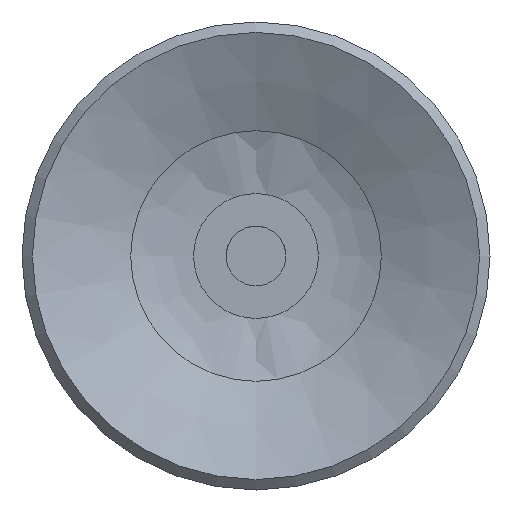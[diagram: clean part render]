
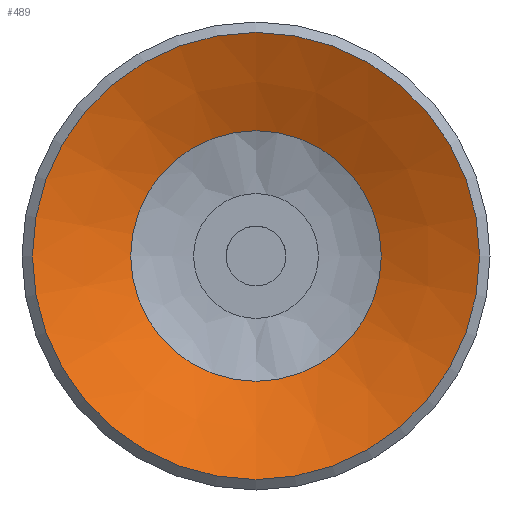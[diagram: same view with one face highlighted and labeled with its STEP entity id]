
A CAD part, front view. The second image highlights one B-rep face of the part: STEP entity #489.
In plain terms, the highlighted conical face has half-angle 65.056 degrees and reference radius 3.2 mm.
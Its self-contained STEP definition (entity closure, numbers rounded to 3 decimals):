
#489=ADVANCED_FACE('',(#731,#732),#733,.F.);
#731=FACE_BOUND('',#1000,.T.);
#732=FACE_OUTER_BOUND('',#1001,.T.);
#733=CONICAL_SURFACE('',#1002,3.2,1.135);
#1000=EDGE_LOOP('',(#1678));
#1001=EDGE_LOOP('',(#1679));
#1002=AXIS2_PLACEMENT_3D('',#1680,#1681,#1682);
#1678=ORIENTED_EDGE('',*,*,#1912,.T.);
#1679=ORIENTED_EDGE('',*,*,#1913,.T.);
#1680=CARTESIAN_POINT('',(0.0,7.896,0.0));
#1681=DIRECTION('',(-0.0,-1.0,0.));
#1682=DIRECTION('',(0.0,0.,-1.0));
#1912=EDGE_CURVE('',#2206,#2206,#2207,.T.);
#1913=EDGE_CURVE('',#2208,#2208,#2209,.T.);
#2206=VERTEX_POINT('',#2898);
#2207=CIRCLE('',#2899,4.203);
#2208=VERTEX_POINT('',#2900);
#2209=CIRCLE('',#2901,7.5);
#2898=CARTESIAN_POINT('',(0.0,7.43,-4.203));
#2899=AXIS2_PLACEMENT_3D('',#3177,#3178,#3179);
#2900=CARTESIAN_POINT('',(0.0,5.896,-7.5));
#2901=AXIS2_PLACEMENT_3D('',#3180,#3181,#3182);
#3177=CARTESIAN_POINT('',(0.0,7.43,0.0));
#3178=DIRECTION('',(0.0,1.0,0.));
#3179=DIRECTION('',(0.0,0.,-1.0));
#3180=CARTESIAN_POINT('',(0.0,5.896,0.0));
#3181=DIRECTION('',(0.0,-1.0,0.));
#3182=DIRECTION('',(0.0,0.,-1.0));
